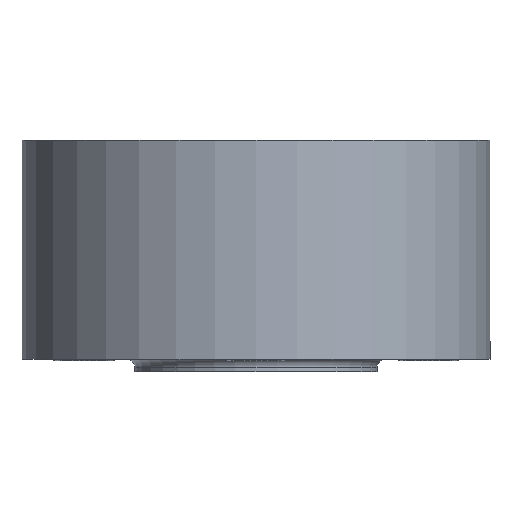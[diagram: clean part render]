
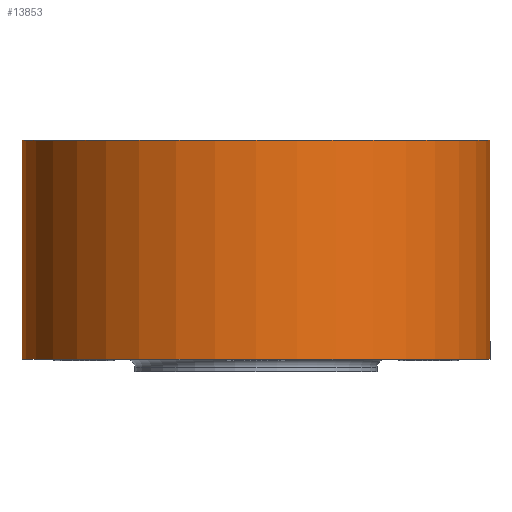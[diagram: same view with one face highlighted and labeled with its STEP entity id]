
A CAD part, front view. The second image highlights one B-rep face of the part: STEP entity #13853.
In plain terms, the highlighted cylindrical face has radius 85 mm (diameter 170 mm), a full revolution.
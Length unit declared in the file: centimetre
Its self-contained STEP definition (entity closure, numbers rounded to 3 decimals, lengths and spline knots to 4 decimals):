
#4733=FACE_BOUND('',#6229,.T.);
#5445=FACE_OUTER_BOUND('',#6228,.T.);
#6228=EDGE_LOOP('',(#13107));
#6229=EDGE_LOOP('',(#13108));
#6283=CIRCLE('',#14363,8.5);
#6293=CIRCLE('',#14384,8.5);
#7538=VERTEX_POINT('',#23309);
#7548=VERTEX_POINT('',#23340);
#9403=EDGE_CURVE('',#7538,#7538,#6283,.T.);
#9413=EDGE_CURVE('',#7548,#7548,#6293,.T.);
#13107=ORIENTED_EDGE('',*,*,#9413,.T.);
#13108=ORIENTED_EDGE('',*,*,#9403,.F.);
#13153=CYLINDRICAL_SURFACE('',#14383,8.5);
#13853=ADVANCED_FACE('',(#5445,#4733),#13153,.T.);
#14363=AXIS2_PLACEMENT_3D('',#23310,#16818,#16819);
#14383=AXIS2_PLACEMENT_3D('',#23339,#16858,#16859);
#14384=AXIS2_PLACEMENT_3D('',#23341,#16860,#16861);
#16818=DIRECTION('center_axis',(0.,0.,
1.));
#16819=DIRECTION('ref_axis',(-1.,0.,0.));
#16858=DIRECTION('center_axis',(0.,0.,
1.));
#16859=DIRECTION('ref_axis',(-1.,0.,0.));
#16860=DIRECTION('center_axis',(0.,0.,1.));
#16861=DIRECTION('ref_axis',(-1.,0.,0.));
#23309=CARTESIAN_POINT('',(8.5,0.,6.4));
#23310=CARTESIAN_POINT('Origin',(0.,0.,
6.4));
#23339=CARTESIAN_POINT('Origin',(0.,0.,
4.4));
#23340=CARTESIAN_POINT('',(-8.5,0.,-1.55));
#23341=CARTESIAN_POINT('Origin',(0.,0.,-1.55));
